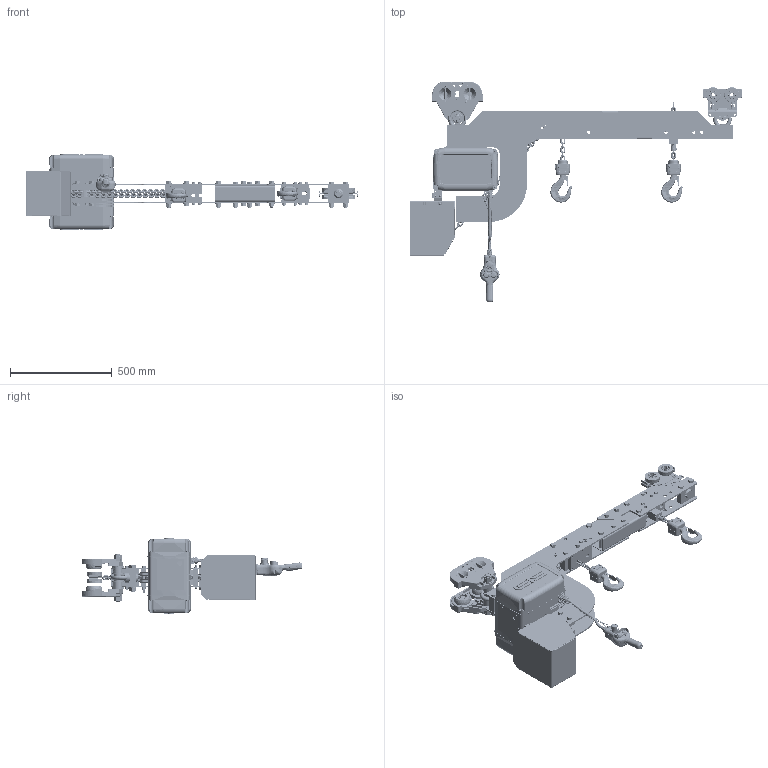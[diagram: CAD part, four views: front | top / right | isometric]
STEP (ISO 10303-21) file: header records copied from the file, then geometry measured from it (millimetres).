
FILE_DESCRIPTION(/* description */ ('Grundausführung GCHS1000'),/* implementation_level */ '2;1');
FILE_NAME(/* name */ 'C:\Users\Gisjst\Desktop\Step dateien\9405_9332_M.stp',/* time_stamp */ '2015-04-14T14:06:12+02:00',/* author */ ('Gisjst'),/* organization */ (''),/* preprocessor_version */ 'ST-DEVELOPER v15.6',/* originating_system */ 'Autodesk Inventor 2015',/* authorisation */ '');
FILE_SCHEMA (('AUTOMOTIVE_DESIGN { 1 0 10303 214 3 1 1 }'));
Products named in the file (42): 9405_9328_M; 9405_9329_M; 9405_2002_M; 9405_9251_M; 9405_9331_M; 9248_1002_M2; 9248_1008_M; 9031_1577; 24.0; M24; 9248_9265_M; 9248_9264_M; 9248_9266_M; 9306_1019_MA; 5-h8-24-B; 9306_1043_M; 9306_1025_M; 9306_1024_M; 9031_3207; 9031_6001_M; 9306_1018_M3; 6304; 9306_1018_M2; 9306_1020_MA; 9405_1026_M_Schweißnähte; 9405_1025_M; 9405_1026_M; 9225_3096_M; AXK3047; 0038_3128; 9038_1750_M; 9405_1027_M; 9405_9262_M; 9039_0007; 9039_0007_M1; 9400.9403.M; 9039_1105; 9290.2005.M; 9400.9402.M; 9405_9330_M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
Assembly tree (98 placements, depth 4):
  9405_9332_N
    9405_9328_M
    9405_9329_M
    9405_2002_M
    9405_9251_M
    9405_9331_M
    9248_9266_M
      9248_9265_M
        9248_1002_M2
        9248_1008_M  x24
        9031_1577  x2
        24.0  x2
        M24  x2
      9248_9264_M  x2
    9306_1020_MA
      9306_1019_MA  x2
      5-h8-24-B  x2
      9306_1043_M  x2
      9306_1025_M  x2
      9306_1024_M
      9031_3207  x2
      9031_6001_M  x2
      9306_1018_M2  x4
        9306_1018_M3
        6304
    9405_1027_M  x2
      9405_1026_M
        9405_1026_M_Schweißnähte
        9405_1025_M
        M24
      9225_3096_M
      AXK3047
      0038_3128
      9038_1750_M
    9405_9262_M  x2
    9039_0007_M1  x11
      9039_0007
    9400.9402.M
      9400.9403.M
      9039_1105  x2
      9290.2005.M
    9405_9330_M
Bounding box: 1633.5 x 1087.12 x 371 mm (x, y, z)
Volume: 36611368.7 mm3; surface area: 4208118.5 mm2
Topology: 290 solids, 338 shells, 10357 faces, 25502 edges, 15916 vertices
Faces by surface type: plane 5321, cylinder 2529, bspline 1204, torus 785, sphere 276, cone 242
Full cylindrical faces by diameter (mm): 1.5 x5, 2 x60, 2.5 x10, 2.85 x8, 3 x8, 3.1 x2, 3.2 x4, 3.7 x2, 3.9 x4, 4 x7, 4.018 x1, 4.134 x5, 4.2 x4, 4.917 x8, 5 x8, 5.5 x6, 6 x14, 6.2 x2, 6.4 x6, 6.5 x4, 7 x184, 7.2 x4, 7.5 x1, 7.99 x1, 8 x10, 8.1 x2, 8.376 x4, 8.5 x16, 8.586 x4, 8.9 x2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
Entity records: 307660 total; most frequent: CARTESIAN_POINT 114231, ORIENTED_EDGE 39418, DIRECTION 38671, EDGE_CURVE 19680, AXIS2_PLACEMENT_3D 13616, VERTEX_POINT 12760, LINE 11439, VECTOR 11439
